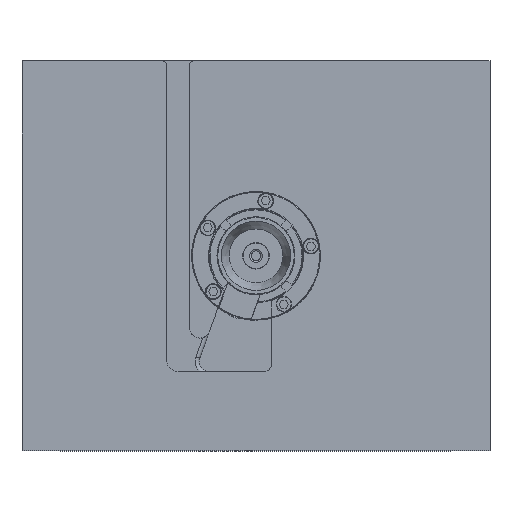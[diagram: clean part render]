
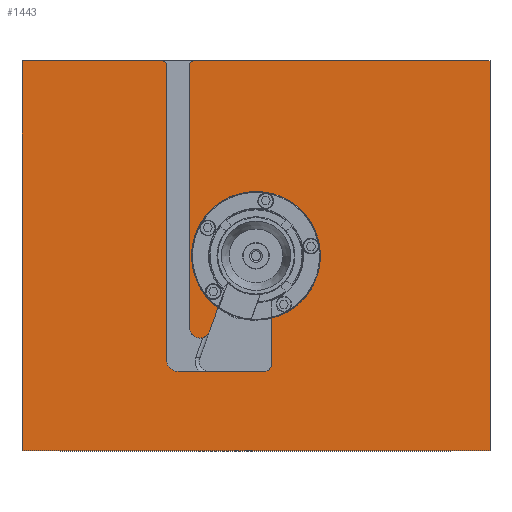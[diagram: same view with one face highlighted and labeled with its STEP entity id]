
A CAD part, top view. The second image highlights one B-rep face of the part: STEP entity #1443.
In plain terms, the highlighted planar face has unit normal (0, 0, 1).
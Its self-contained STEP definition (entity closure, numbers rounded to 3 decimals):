
#1443 = ADVANCED_FACE( '', ( #3311 ), #3312, .F. );
#3311 = FACE_OUTER_BOUND( '', #5884, .T. );
#3312 = PLANE( '', #5885 );
#5884 = EDGE_LOOP( '', ( #9312, #9313, #9314, #9315, #9316, #9317, #9318, #9319, #9320, #9321, #9322, #9323, #9324, #9325, #9326, #9327 ) );
#5885 = AXIS2_PLACEMENT_3D( '', #9328, #9329, #9330 );
#9312 = ORIENTED_EDGE( '', *, *, #13258, .F. );
#9313 = ORIENTED_EDGE( '', *, *, #13259, .T. );
#9314 = ORIENTED_EDGE( '', *, *, #13040, .T. );
#9315 = ORIENTED_EDGE( '', *, *, #13260, .T. );
#9316 = ORIENTED_EDGE( '', *, *, #13261, .T. );
#9317 = ORIENTED_EDGE( '', *, *, #13262, .F. );
#9318 = ORIENTED_EDGE( '', *, *, #13263, .T. );
#9319 = ORIENTED_EDGE( '', *, *, #12911, .F. );
#9320 = ORIENTED_EDGE( '', *, *, #13264, .F. );
#9321 = ORIENTED_EDGE( '', *, *, #13265, .T. );
#9322 = ORIENTED_EDGE( '', *, *, #13266, .F. );
#9323 = ORIENTED_EDGE( '', *, *, #13267, .T. );
#9324 = ORIENTED_EDGE( '', *, *, #13268, .F. );
#9325 = ORIENTED_EDGE( '', *, *, #12422, .F. );
#9326 = ORIENTED_EDGE( '', *, *, #13269, .F. );
#9327 = ORIENTED_EDGE( '', *, *, #13270, .F. );
#9328 = CARTESIAN_POINT( '', ( 300., -250., 0. ) );
#9329 = DIRECTION( '', ( 0., 0., -1. ) );
#9330 = DIRECTION( '', ( 0., -1., 0. ) );
#12422 = EDGE_CURVE( '', #14340, #14341, #14342, .T. );
#12911 = EDGE_CURVE( '', #15151, #15152, #15153, .F. );
#13040 = EDGE_CURVE( '', #15359, #15360, #15361, .T. );
#13258 = EDGE_CURVE( '', #15692, #15693, #15694, .T. );
#13259 = EDGE_CURVE( '', #15692, #15359, #15695, .F. );
#13260 = EDGE_CURVE( '', #15360, #15696, #15697, .F. );
#13261 = EDGE_CURVE( '', #15696, #15698, #15699, .F. );
#13262 = EDGE_CURVE( '', #15700, #15698, #15701, .F. );
#13263 = EDGE_CURVE( '', #15700, #15152, #15702, .F. );
#13264 = EDGE_CURVE( '', #15703, #15151, #15704, .T. );
#13265 = EDGE_CURVE( '', #15703, #15705, #15706, .T. );
#13266 = EDGE_CURVE( '', #15707, #15705, #15708, .F. );
#13267 = EDGE_CURVE( '', #15707, #15709, #15710, .F. );
#13268 = EDGE_CURVE( '', #14341, #15709, #15711, .T. );
#13269 = EDGE_CURVE( '', #15712, #14340, #15713, .T. );
#13270 = EDGE_CURVE( '', #15693, #15712, #15714, .T. );
#14340 = VERTEX_POINT( '', #17057 );
#14341 = VERTEX_POINT( '', #17058 );
#14342 = LINE( '', #17059, #17060 );
#15151 = VERTEX_POINT( '', #18219 );
#15152 = VERTEX_POINT( '', #18220 );
#15153 = CIRCLE( '', #18221, 8.853 );
#15359 = VERTEX_POINT( '', #18574 );
#15360 = VERTEX_POINT( '', #18575 );
#15361 = LINE( '', #18576, #18577 );
#15692 = VERTEX_POINT( '', #19041 );
#15693 = VERTEX_POINT( '', #19042 );
#15694 = LINE( '', #19043, #19044 );
#15695 = CIRCLE( '', #19045, 5. );
#15696 = VERTEX_POINT( '', #19046 );
#15697 = CIRCLE( '', #19047, 13. );
#15698 = VERTEX_POINT( '', #19048 );
#15699 = LINE( '', #19049, #19050 );
#15700 = VERTEX_POINT( '', #19051 );
#15701 = CIRCLE( '', #19052, 82.5 );
#15702 = LINE( '', #19053, #19054 );
#15703 = VERTEX_POINT( '', #19055 );
#15704 = LINE( '', #19056, #19057 );
#15705 = VERTEX_POINT( '', #19058 );
#15706 = CIRCLE( '', #19059, 15. );
#15707 = VERTEX_POINT( '', #19060 );
#15708 = LINE( '', #19061, #19062 );
#15709 = VERTEX_POINT( '', #19063 );
#15710 = CIRCLE( '', #19064, 5. );
#15711 = LINE( '', #19065, #19066 );
#15712 = VERTEX_POINT( '', #19067 );
#15713 = LINE( '', #19068, #19069 );
#15714 = LINE( '', #19070, #19071 );
#17057 = CARTESIAN_POINT( '', ( -300., -250., 0. ) );
#17058 = CARTESIAN_POINT( '', ( -300., 250., 0. ) );
#17059 = CARTESIAN_POINT( '', ( -300., -250., 0. ) );
#17060 = VECTOR( '', #20587, 1000. );
#18219 = CARTESIAN_POINT( '', ( 11.147, -148., 0. ) );
#18220 = CARTESIAN_POINT( '', ( 20., -139.147, 0. ) );
#18221 = AXIS2_PLACEMENT_3D( '', #21302, #21303, #21304 );
#18574 = CARTESIAN_POINT( '', ( -85., 245., 0. ) );
#18575 = CARTESIAN_POINT( '', ( -85., -92.561, 0. ) );
#18576 = CARTESIAN_POINT( '', ( -85., -250., 0. ) );
#18577 = VECTOR( '', #21465, 1000. );
#19041 = CARTESIAN_POINT( '', ( -80., 250., 0. ) );
#19042 = CARTESIAN_POINT( '', ( 300., 250., 0. ) );
#19043 = CARTESIAN_POINT( '', ( -300., 250., 0. ) );
#19044 = VECTOR( '', #21731, 1000. );
#19045 = AXIS2_PLACEMENT_3D( '', #21732, #21733, #21734 );
#19046 = CARTESIAN_POINT( '', ( -59.784, -97.008, 0. ) );
#19047 = AXIS2_PLACEMENT_3D( '', #21735, #21736, #21737 );
#19048 = CARTESIAN_POINT( '', ( -48.711, -66.585, 0. ) );
#19049 = CARTESIAN_POINT( '', ( -66.868, -116.471, 0. ) );
#19050 = VECTOR( '', #21738, 1000. );
#19051 = CARTESIAN_POINT( '', ( 20., -80.039, 0. ) );
#19052 = AXIS2_PLACEMENT_3D( '', #21739, #21740, #21741 );
#19053 = CARTESIAN_POINT( '', ( 20., -250., 0. ) );
#19054 = VECTOR( '', #21742, 1000. );
#19055 = CARTESIAN_POINT( '', ( -100., -148., 0. ) );
#19056 = CARTESIAN_POINT( '', ( -60.404, -148., 0. ) );
#19057 = VECTOR( '', #21743, 1000. );
#19058 = CARTESIAN_POINT( '', ( -115., -133., 0. ) );
#19059 = AXIS2_PLACEMENT_3D( '', #21744, #21745, #21746 );
#19060 = CARTESIAN_POINT( '', ( -115., 245., 0. ) );
#19061 = CARTESIAN_POINT( '', ( -115., 260., 0. ) );
#19062 = VECTOR( '', #21747, 1000. );
#19063 = CARTESIAN_POINT( '', ( -120., 250., 0. ) );
#19064 = AXIS2_PLACEMENT_3D( '', #21748, #21749, #21750 );
#19065 = CARTESIAN_POINT( '', ( -300., 250., 0. ) );
#19066 = VECTOR( '', #21751, 1000. );
#19067 = CARTESIAN_POINT( '', ( 300., -250., 0. ) );
#19068 = CARTESIAN_POINT( '', ( 300., -250., 0. ) );
#19069 = VECTOR( '', #21752, 1000. );
#19070 = CARTESIAN_POINT( '', ( 300., 250., 0. ) );
#19071 = VECTOR( '', #21753, 1000. );
#20587 = DIRECTION( '', ( 0., 1., 0. ) );
#21302 = CARTESIAN_POINT( '', ( 11.147, -139.147, 0. ) );
#21303 = DIRECTION( '', ( 0., 0., -1. ) );
#21304 = DIRECTION( '', ( -1., 0., 0. ) );
#21465 = DIRECTION( '', ( 0., -1., 0. ) );
#21731 = DIRECTION( '', ( 1., 0., 0. ) );
#21732 = CARTESIAN_POINT( '', ( -80., 245., 0. ) );
#21733 = DIRECTION( '', ( 0., 0., -1. ) );
#21734 = DIRECTION( '', ( -1., 0., 0. ) );
#21735 = CARTESIAN_POINT( '', ( -72., -92.561, 0. ) );
#21736 = DIRECTION( '', ( 0., 0., -1. ) );
#21737 = DIRECTION( '', ( -1., 0., 0. ) );
#21738 = DIRECTION( '', ( -0.342, -0.94, 0. ) );
#21739 = CARTESIAN_POINT( '', ( 0., 0., 0. ) );
#21740 = DIRECTION( '', ( 0., 0., -1. ) );
#21741 = DIRECTION( '', ( -1., 0., 0. ) );
#21742 = DIRECTION( '', ( 0., 1., 0. ) );
#21743 = DIRECTION( '', ( 1., 0., 0. ) );
#21744 = CARTESIAN_POINT( '', ( -100., -133., 0. ) );
#21745 = DIRECTION( '', ( 0., 0., -1. ) );
#21746 = DIRECTION( '', ( -1., 0., 0. ) );
#21747 = DIRECTION( '', ( 0., 1., 0. ) );
#21748 = CARTESIAN_POINT( '', ( -120., 245., 0. ) );
#21749 = DIRECTION( '', ( 0., 0., -1. ) );
#21750 = DIRECTION( '', ( -1., 0., 0. ) );
#21751 = DIRECTION( '', ( 1., 0., 0. ) );
#21752 = DIRECTION( '', ( -1., 0., 0. ) );
#21753 = DIRECTION( '', ( 0., -1., 0. ) );
